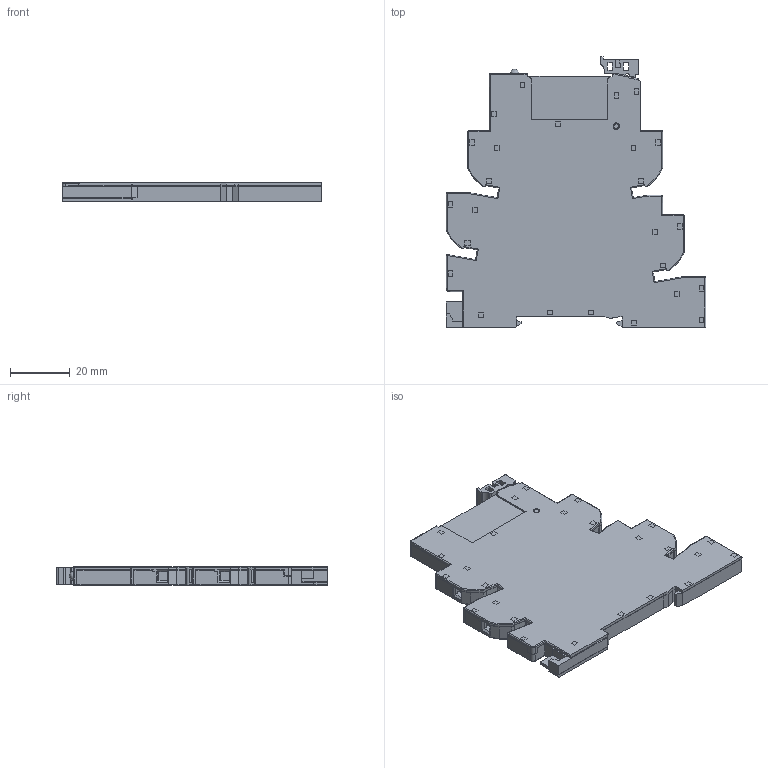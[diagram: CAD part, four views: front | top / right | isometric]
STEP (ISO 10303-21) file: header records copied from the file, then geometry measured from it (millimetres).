
FILE_DESCRIPTION(('STEP AP214'),'2;1');
FILE_NAME('3920=3481+9362.stp','2010-10-02T08:56:46',(''),(''),'2007.1.106','THINKDESIGN','');
FILE_SCHEMA(('AUTOMOTIVE_DESIGN'));
Products named in the file (1): None
Bounding box: 87 x 90.7 x 6.2 mm (x, y, z)
Surface area: 26836.2 mm2 (no closed solid volume)
Topology: 0 solids, 0 shells, 1025 faces, 7000 edges, 6980 vertices
Faces by surface type: plane 811, cylinder 178, bspline 36
Full cylindrical faces by diameter (mm): 2 x2, 2.2 x2, 3 x1, 3.9 x5
Entity records: 65909 total; most frequent: CARTESIAN_POINT 17373, DIRECTION 8692, COMPOSITE_CURVE_SEGMENT 6982, TRIMMED_CURVE 6427, VECTOR 6140, LINE 6140, AXIS2_PLACEMENT_3D 1276, OUTER_BOUNDARY_CURVE 1025
